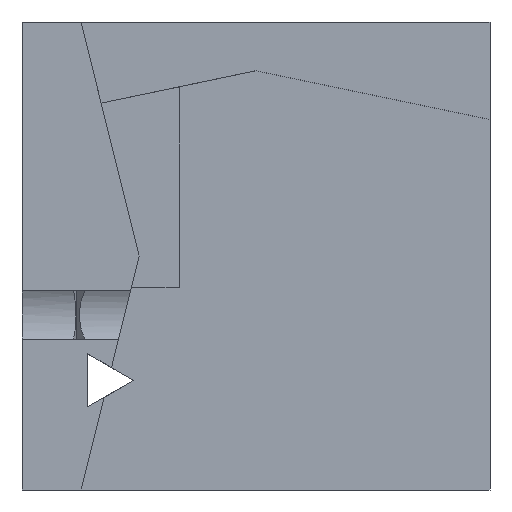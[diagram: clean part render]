
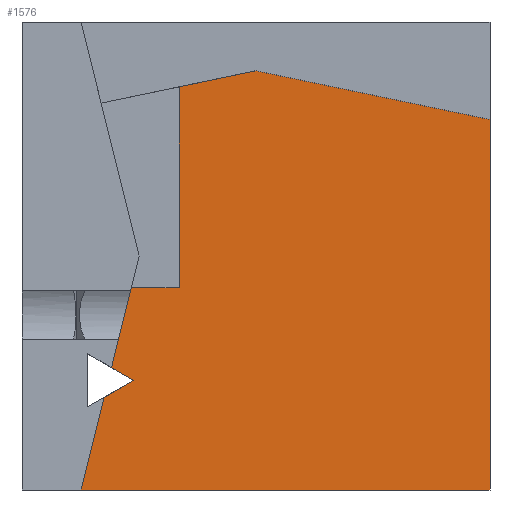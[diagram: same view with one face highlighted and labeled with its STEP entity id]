
A CAD part, front view. The second image highlights one B-rep face of the part: STEP entity #1576.
In plain terms, the highlighted planar face has unit normal (0, -1, 0).
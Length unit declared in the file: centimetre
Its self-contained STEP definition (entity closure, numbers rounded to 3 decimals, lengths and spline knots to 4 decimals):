
#16 = CARTESIAN_POINT ( 'NONE',  ( 336.0041, 0., 432.6244 ) ) ;
#26 = FACE_OUTER_BOUND ( 'NONE', #269, .T. ) ;
#32 = EDGE_CURVE ( 'NONE', #385, #1078, #1016, .T. ) ;
#38 = ORIENTED_EDGE ( 'NONE', *, *, #88, .F. ) ;
#50 = LINE ( 'NONE', #422, #1601 ) ;
#56 = VECTOR ( 'NONE', #911, 100. ) ;
#71 = DIRECTION ( 'NONE',  ( 0.241, 0., 0.971 ) ) ;
#75 = VECTOR ( 'NONE', #528, 100. ) ;
#88 = EDGE_CURVE ( 'NONE', #131, #270, #762, .T. ) ;
#121 = VERTEX_POINT ( 'NONE', #1640 ) ;
#131 = VERTEX_POINT ( 'NONE', #488 ) ;
#134 = CARTESIAN_POINT ( 'NONE',  ( 500., 0., 895.7486 ) ) ;
#141 = EDGE_CURVE ( 'NONE', #1641, #121, #882, .T. ) ;
#143 = PLANE ( 'NONE',  #947 ) ;
#156 = VECTOR ( 'NONE', #1156, 100. ) ;
#167 = ORIENTED_EDGE ( 'NONE', *, *, #477, .F. ) ;
#170 = LINE ( 'NONE', #519, #704 ) ;
#221 = CARTESIAN_POINT ( 'NONE',  ( 175.4218, 0., 197.8142 ) ) ;
#232 = DIRECTION ( 'NONE',  ( 0.979, 0., 0.204 ) ) ;
#269 = EDGE_LOOP ( 'NONE', ( #38, #1264, #934, #647, #1387, #167, #1534, #841, #755, #1177 ) ) ;
#270 = VERTEX_POINT ( 'NONE', #1167 ) ;
#271 = CARTESIAN_POINT ( 'NONE',  ( 1000., 0., 791.4973 ) ) ;
#299 = DIRECTION ( 'NONE',  ( 0., 1., 0. ) ) ;
#336 = CARTESIAN_POINT ( 'NONE',  ( 250.4726, 0., 500. ) ) ;
#353 = VERTEX_POINT ( 'NONE', #1007 ) ;
#367 = EDGE_CURVE ( 'NONE', #270, #1641, #1398, .T. ) ;
#373 = DIRECTION ( 'NONE',  ( 0., 0., 1. ) ) ;
#382 = CARTESIAN_POINT ( 'NONE',  ( 126.7121, 0., 432.6244 ) ) ;
#385 = VERTEX_POINT ( 'NONE', #767 ) ;
#414 = DIRECTION ( 'NONE',  ( 1., 0., 0. ) ) ;
#422 = CARTESIAN_POINT ( 'NONE',  ( 336.0041, 0., 432.6244 ) ) ;
#477 = EDGE_CURVE ( 'NONE', #858, #944, #1030, .T. ) ;
#488 = CARTESIAN_POINT ( 'NONE',  ( 336.0041, 0., 861.5551 ) ) ;
#519 = CARTESIAN_POINT ( 'NONE',  ( 250.4726, 0., 500. ) ) ;
#528 = DIRECTION ( 'NONE',  ( -0.865, 0., 0.501 ) ) ;
#536 = DIRECTION ( 'NONE',  ( 0.241, 0., 0.971 ) ) ;
#542 = CARTESIAN_POINT ( 'NONE',  ( 0., 0., 0. ) ) ;
#647 = ORIENTED_EDGE ( 'NONE', *, *, #1364, .F. ) ;
#704 = VECTOR ( 'NONE', #536, 100. ) ;
#755 = ORIENTED_EDGE ( 'NONE', *, *, #141, .F. ) ;
#762 = LINE ( 'NONE', #134, #1057 ) ;
#767 = CARTESIAN_POINT ( 'NONE',  ( 233.7392, 0., 432.6244 ) ) ;
#783 = VECTOR ( 'NONE', #71, 100. ) ;
#841 = ORIENTED_EDGE ( 'NONE', *, *, #1096, .T. ) ;
#858 = VERTEX_POINT ( 'NONE', #221 ) ;
#882 = LINE ( 'NONE', #1417, #156 ) ;
#890 = DIRECTION ( 'NONE',  ( 1., 0., 0. ) ) ;
#898 = CARTESIAN_POINT ( 'NONE',  ( 140.0017, 0., 177.3997 ) ) ;
#911 = DIRECTION ( 'NONE',  ( 0.979, 0., -0.204 ) ) ;
#934 = ORIENTED_EDGE ( 'NONE', *, *, #32, .F. ) ;
#944 = VERTEX_POINT ( 'NONE', #1235 ) ;
#947 = AXIS2_PLACEMENT_3D ( 'NONE', #1023, #299, #1563 ) ;
#1007 = CARTESIAN_POINT ( 'NONE',  ( 191.2454, 0., 261.5267 ) ) ;
#1016 = LINE ( 'NONE', #382, #1464 ) ;
#1023 = CARTESIAN_POINT ( 'NONE',  ( 0., 0., 1000. ) ) ;
#1030 = LINE ( 'NONE', #898, #1092 ) ;
#1034 = CARTESIAN_POINT ( 'NONE',  ( 238.4831, 0., 234.1597 ) ) ;
#1049 = LINE ( 'NONE', #1034, #75 ) ;
#1057 = VECTOR ( 'NONE', #232, 100. ) ;
#1078 = VERTEX_POINT ( 'NONE', #16 ) ;
#1092 = VECTOR ( 'NONE', #1547, 100. ) ;
#1096 = EDGE_CURVE ( 'NONE', #1544, #121, #1522, .T. ) ;
#1127 = EDGE_CURVE ( 'NONE', #1078, #131, #50, .T. ) ;
#1156 = DIRECTION ( 'NONE',  ( 0., 0., -1. ) ) ;
#1167 = CARTESIAN_POINT ( 'NONE',  ( 500., 0., 895.7486 ) ) ;
#1168 = CARTESIAN_POINT ( 'NONE',  ( 1000., 0., 791.4973 ) ) ;
#1177 = ORIENTED_EDGE ( 'NONE', *, *, #367, .F. ) ;
#1235 = CARTESIAN_POINT ( 'NONE',  ( 238.4831, 0., 234.1597 ) ) ;
#1264 = ORIENTED_EDGE ( 'NONE', *, *, #1127, .F. ) ;
#1279 = CARTESIAN_POINT ( 'NONE',  ( 126.2927, 0., 0. ) ) ;
#1364 = EDGE_CURVE ( 'NONE', #353, #385, #1471, .T. ) ;
#1387 = ORIENTED_EDGE ( 'NONE', *, *, #1646, .F. ) ;
#1398 = LINE ( 'NONE', #271, #56 ) ;
#1417 = CARTESIAN_POINT ( 'NONE',  ( 1000., 0., 1000. ) ) ;
#1464 = VECTOR ( 'NONE', #890, 100. ) ;
#1471 = LINE ( 'NONE', #336, #783 ) ;
#1522 = LINE ( 'NONE', #542, #1542 ) ;
#1534 = ORIENTED_EDGE ( 'NONE', *, *, #1612, .F. ) ;
#1542 = VECTOR ( 'NONE', #414, 100. ) ;
#1544 = VERTEX_POINT ( 'NONE', #1279 ) ;
#1547 = DIRECTION ( 'NONE',  ( 0.866, 0., 0.499 ) ) ;
#1563 = DIRECTION ( 'NONE',  ( 0., 0., 1. ) ) ;
#1576 = ADVANCED_FACE ( 'NONE', ( #26 ), #143, .F. ) ;
#1601 = VECTOR ( 'NONE', #373, 100. ) ;
#1612 = EDGE_CURVE ( 'NONE', #1544, #858, #170, .T. ) ;
#1640 = CARTESIAN_POINT ( 'NONE',  ( 1000., 0., 0. ) ) ;
#1641 = VERTEX_POINT ( 'NONE', #1168 ) ;
#1646 = EDGE_CURVE ( 'NONE', #944, #353, #1049, .T. ) ;
